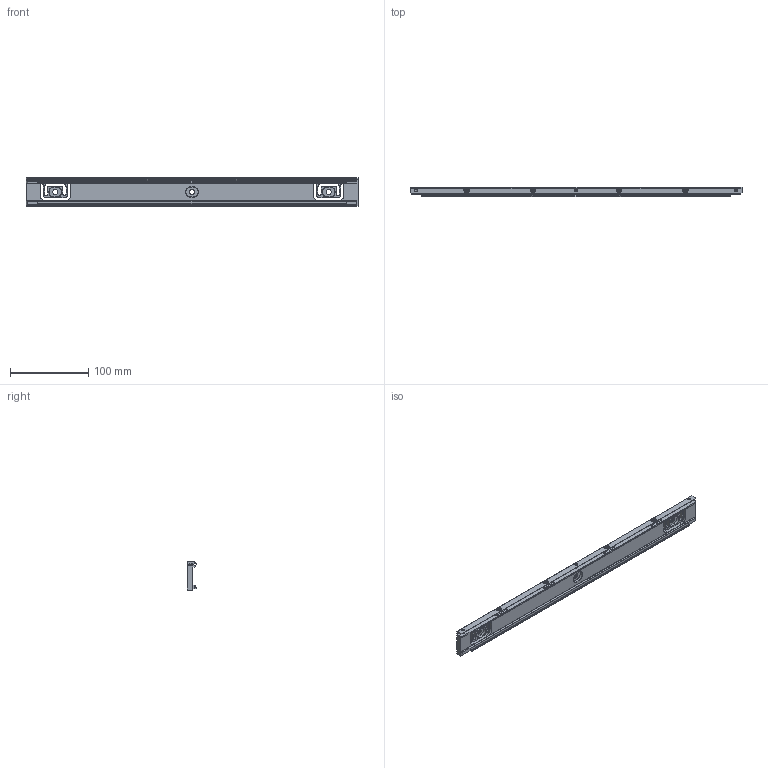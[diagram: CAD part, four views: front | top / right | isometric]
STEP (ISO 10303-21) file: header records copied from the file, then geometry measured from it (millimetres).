
FILE_DESCRIPTION(('Creo Elements/Direct Modeling STEP Export'),'2;1');
FILE_NAME('B3-320.stp','2020-10-30T12:03:51',(''),(''),'Creo Elements/Direct Modeling STEP processor for AP214 (Solid Model)','Creo Elements/Direct Modeling 19.0G 27-Nov-2017 (C) Parametric Technology GmbH','');
FILE_SCHEMA(('AUTOMOTIVE_DESIGN { 1 0 10303 214 1 1 1 1 }'));
Length unit declared in the file: millimetre
Products named in the file (2): PERFIL_SOPORTE_MECANIZADO_REGLA_SV3-320
Assembly tree (1 placements, depth 2):
  PERFIL_SOPORTE_MECANIZADO_REGLA_SV3-320
    PERFIL_SOPORTE_MECANIZADO_REGLA_SV3-320
Bounding box: 425 x 12.13 x 36.1 mm (x, y, z)
Volume: 101058 mm3; surface area: 55315 mm2
Topology: 1 solids, 1 shells, 838 faces, 2454 edges, 1614 vertices
Faces by surface type: plane 448, cylinder 292, cone 66, torus 16, bspline 16
Entity records: 30999 total; most frequent: CARTESIAN_POINT 6841, ORIENTED_EDGE 4884, DIRECTION 4095, EDGE_CURVE 2442, VERTEX_POINT 1614, VECTOR 1383, LINE 1383, AXIS2_PLACEMENT_3D 1356
